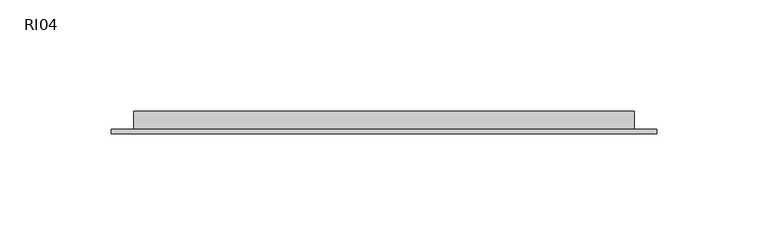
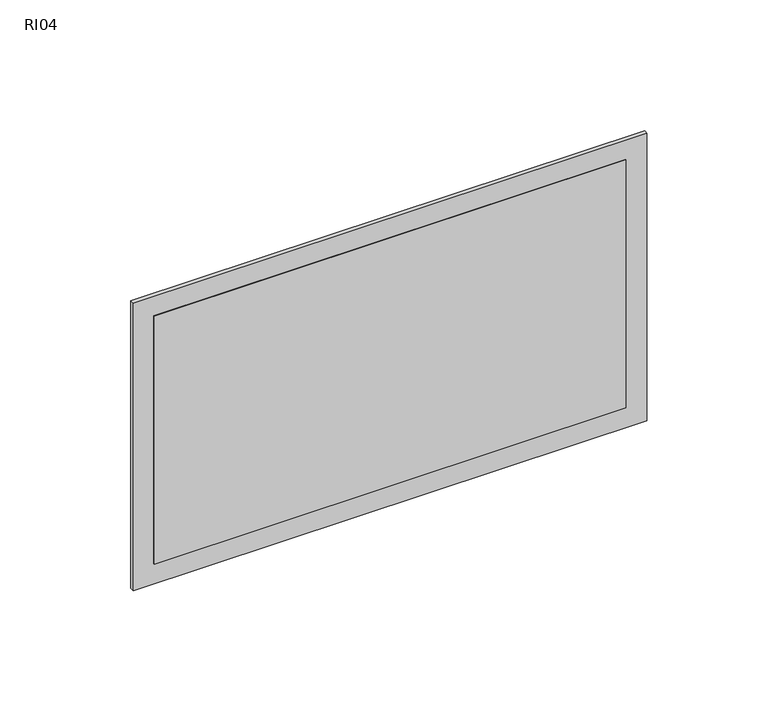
"""IFC4 building model written with IfcOpenShell, lengths in millimetres: air terminal geometry, ZYR_03.06.04.01 Reixa Paret Impulsió : RI04."""

from ifc_helpers import new_model, si_unit, frame, origin, place, context, project, spatial, polyline, outline, extrude, source, transform, mapped, element, save


def ri04_d3f9995e(model_context):
    return source(origin(), model_context, "Body", "SweptSolid", [
        extrude(outline(polyline([(112.5, 0.0), (-112.5, 0.0), (-112.5, 10.0), (112.5, 10.0), (112.5, 0.0)])), frame((0.0, 0.0, -62.5), z_axis=(0.0, 0.0, 1.0), x_axis=(1.0, 0.0, 0.0)), (0.0, 0.0, 1.0), 125.0),
        extrude(outline(polyline([(72.5, 122.5), (72.5, -122.5), (-72.5, -122.5), (-72.5, 122.5), (72.5, 122.5)]), holes=[polyline([(62.5, 112.5), (-62.5, 112.5), (-62.5, -112.5), (62.5, -112.5), (62.5, 112.5)])]), frame((0.0, 0.0, 0.0), z_axis=(0.0, 1.0, 0.0), x_axis=(0.0, 0.0, 1.0)), (0.0, 0.0, 1.0), 2.0),
    ])


if __name__ == "__main__":
    model = new_model("IFC4")
    model_context = context("Model", 3, world=origin())
    ifc_project = project(units=[si_unit("LENGTHUNIT", "METRE", prefix="MILLI")], contexts=[model_context])
    site = spatial("IfcSite", under=ifc_project)
    building = spatial("IfcBuilding", under=site)
    placement = place(None, origin())
    ri04_shape = ri04_d3f9995e(model_context)
    element("IfcAirTerminal", 1, ObjectType="ZYR_03.06.04.01 Reixa Paret Impulsió : RI04", at=placement, inside=building, context=model_context, shape_type="MappedRepresentation", body=[
        mapped(ri04_shape, transform((0.0, 0.0, 0.0), x_axis=(1.0, 0.0, 0.0), y_axis=(0.0, 1.0, 0.0), z_axis=(0.0, 0.0, 1.0))),
    ])
    save(model, "model.ifc")
